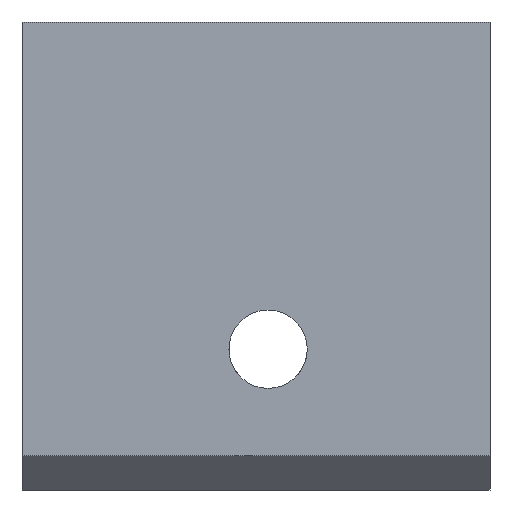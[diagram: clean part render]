
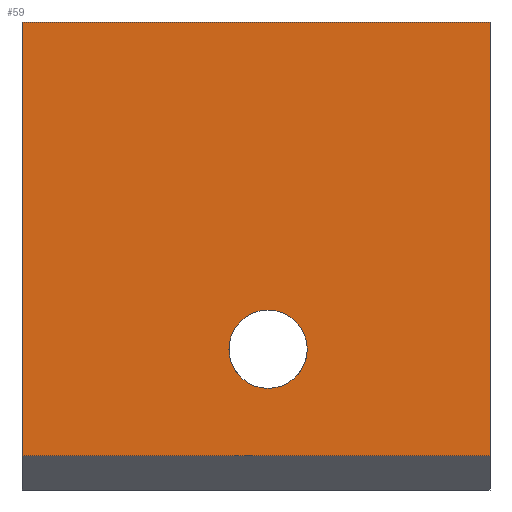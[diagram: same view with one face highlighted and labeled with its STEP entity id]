
A CAD part, left-side view. The second image highlights one B-rep face of the part: STEP entity #59.
In plain terms, the highlighted planar face has unit normal (-1, 0, 0).
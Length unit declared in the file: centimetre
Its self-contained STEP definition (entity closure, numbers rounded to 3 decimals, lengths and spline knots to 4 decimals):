
#22 = EDGE_CURVE ( 'NONE', #588, #306, #861, .T. ) ;
#27 = AXIS2_PLACEMENT_3D ( 'NONE', #1333, #624, #1199 ) ;
#40 = AXIS2_PLACEMENT_3D ( 'NONE', #355, #1354, #118 ) ;
#44 = CARTESIAN_POINT ( 'NONE',  ( 0., 1000., 1000. ) ) ;
#59 = ADVANCED_FACE ( 'NONE', ( #956, #975 ), #1465, .F. ) ;
#113 = VECTOR ( 'NONE', #1174, 100. ) ;
#118 = DIRECTION ( 'NONE',  ( 0., 0., -1. ) ) ;
#222 = DIRECTION ( 'NONE',  ( 0., 0., -1. ) ) ;
#265 = EDGE_CURVE ( 'NONE', #306, #1431, #819, .T. ) ;
#306 = VERTEX_POINT ( 'NONE', #1416 ) ;
#308 = DIRECTION ( 'NONE',  ( 1., 0., 0. ) ) ;
#355 = CARTESIAN_POINT ( 'NONE',  ( 0., 1000., 1000. ) ) ;
#377 = CARTESIAN_POINT ( 'NONE',  ( 0., 1000., 1000. ) ) ;
#449 = LINE ( 'NONE', #1172, #1239 ) ;
#458 = ORIENTED_EDGE ( 'NONE', *, *, #1149, .F. ) ;
#465 = ORIENTED_EDGE ( 'NONE', *, *, #720, .T. ) ;
#492 = VERTEX_POINT ( 'NONE', #1366 ) ;
#499 = VERTEX_POINT ( 'NONE', #647 ) ;
#550 = CIRCLE ( 'NONE', #703, 83.6477 ) ;
#588 = VERTEX_POINT ( 'NONE', #44 ) ;
#624 = DIRECTION ( 'NONE',  ( 1., 0., 0. ) ) ;
#647 = CARTESIAN_POINT ( 'NONE',  ( 0., 0., 1000. ) ) ;
#688 = CARTESIAN_POINT ( 'NONE',  ( 0., 0., 73.4996 ) ) ;
#702 = CARTESIAN_POINT ( 'NONE',  ( 0., 474.2058, 300.7975 ) ) ;
#703 = AXIS2_PLACEMENT_3D ( 'NONE', #702, #308, #1409 ) ;
#720 = EDGE_CURVE ( 'NONE', #492, #884, #550, .T. ) ;
#730 = EDGE_CURVE ( 'NONE', #588, #499, #1049, .T. ) ;
#763 = VECTOR ( 'NONE', #222, 100. ) ;
#786 = EDGE_LOOP ( 'NONE', ( #816, #1205, #458, #1530 ) ) ;
#816 = ORIENTED_EDGE ( 'NONE', *, *, #22, .T. ) ;
#819 = LINE ( 'NONE', #1315, #113 ) ;
#825 = EDGE_CURVE ( 'NONE', #884, #492, #1446, .T. ) ;
#861 = LINE ( 'NONE', #377, #763 ) ;
#884 = VERTEX_POINT ( 'NONE', #1098 ) ;
#956 = FACE_BOUND ( 'NONE', #1264, .T. ) ;
#975 = FACE_OUTER_BOUND ( 'NONE', #786, .T. ) ;
#1049 = LINE ( 'NONE', #1309, #1474 ) ;
#1053 = DIRECTION ( 'NONE',  ( 0., 0., -1. ) ) ;
#1076 = ORIENTED_EDGE ( 'NONE', *, *, #825, .T. ) ;
#1098 = CARTESIAN_POINT ( 'NONE',  ( 0., 474.2058, 384.4452 ) ) ;
#1149 = EDGE_CURVE ( 'NONE', #499, #1431, #449, .T. ) ;
#1172 = CARTESIAN_POINT ( 'NONE',  ( 0., 0., 1000. ) ) ;
#1174 = DIRECTION ( 'NONE',  ( 0., -1., 0. ) ) ;
#1199 = DIRECTION ( 'NONE',  ( 0., 0., -1. ) ) ;
#1205 = ORIENTED_EDGE ( 'NONE', *, *, #265, .T. ) ;
#1239 = VECTOR ( 'NONE', #1053, 100. ) ;
#1264 = EDGE_LOOP ( 'NONE', ( #465, #1076 ) ) ;
#1309 = CARTESIAN_POINT ( 'NONE',  ( 0., 1000., 1000. ) ) ;
#1315 = CARTESIAN_POINT ( 'NONE',  ( 0., 1000., 73.4996 ) ) ;
#1333 = CARTESIAN_POINT ( 'NONE',  ( 0., 474.2058, 300.7975 ) ) ;
#1354 = DIRECTION ( 'NONE',  ( 1., 0., 0. ) ) ;
#1366 = CARTESIAN_POINT ( 'NONE',  ( 0., 474.2058, 217.1498 ) ) ;
#1409 = DIRECTION ( 'NONE',  ( 0., 0., -1. ) ) ;
#1416 = CARTESIAN_POINT ( 'NONE',  ( 0., 1000., 73.4996 ) ) ;
#1431 = VERTEX_POINT ( 'NONE', #688 ) ;
#1446 = CIRCLE ( 'NONE', #27, 83.6477 ) ;
#1465 = PLANE ( 'NONE',  #40 ) ;
#1474 = VECTOR ( 'NONE', #1546, 100. ) ;
#1530 = ORIENTED_EDGE ( 'NONE', *, *, #730, .F. ) ;
#1546 = DIRECTION ( 'NONE',  ( 0., -1., 0. ) ) ;
